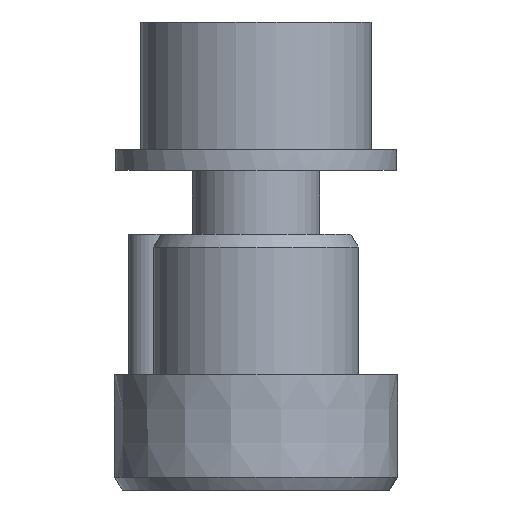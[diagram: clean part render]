
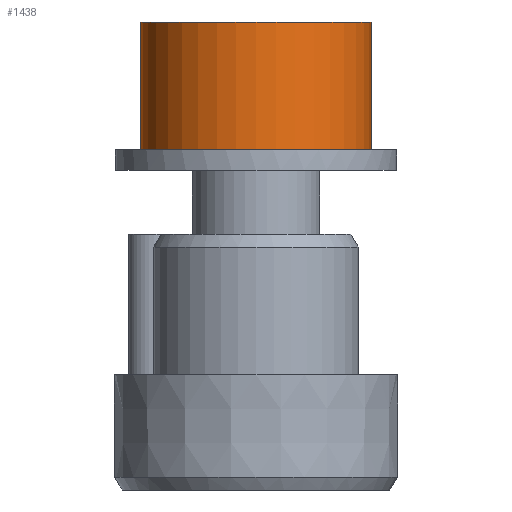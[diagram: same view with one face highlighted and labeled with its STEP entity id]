
A CAD part, left-side view. The second image highlights one B-rep face of the part: STEP entity #1438.
In plain terms, the highlighted cylindrical face has radius 4.5 mm (diameter 9 mm), a partial arc.
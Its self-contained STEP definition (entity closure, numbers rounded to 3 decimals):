
#1389=CARTESIAN_POINT('Axis2P3D Location',(0.,0.,0.8)) ;
#1393=CARTESIAN_POINT('Vertex',(0.,4.5,0.8)) ;
#1395=CARTESIAN_POINT('Vertex',(0.,-4.5,0.8)) ;
#1408=CARTESIAN_POINT('Axis2P3D Location',(0.,0.,0.8)) ;
#1413=CARTESIAN_POINT('Line Origine',(0.,-4.5,0.8)) ;
#1417=CARTESIAN_POINT('Vertex',(0.,-4.5,5.8)) ;
#1420=CARTESIAN_POINT('Axis2P3D Location',(0.,0.,5.8)) ;
#1424=CARTESIAN_POINT('Vertex',(0.,4.5,5.8)) ;
#1427=CARTESIAN_POINT('Line Origine',(0.,4.5,0.8)) ;
#1390=DIRECTION('Axis2P3D Direction',(0.,-0.,1.)) ;
#1409=DIRECTION('Axis2P3D Direction',(0.,0.,1.)) ;
#1410=DIRECTION('Axis2P3D XDirection',(0.,1.,0.)) ;
#1414=DIRECTION('Vector Direction',(0.,0.,1.)) ;
#1421=DIRECTION('Axis2P3D Direction',(0.,0.,1.)) ;
#1428=DIRECTION('Vector Direction',(0.,0.,1.)) ;
#1391=AXIS2_PLACEMENT_3D('Circle Axis2P3D',#1389,#1390,$) ;
#1411=AXIS2_PLACEMENT_3D('Cylinder Axis2P3D',#1408,#1409,#1410) ;
#1422=AXIS2_PLACEMENT_3D('Circle Axis2P3D',#1420,#1421,$) ;
#1433=ORIENTED_EDGE('',*,*,#1397,.T.) ;
#1434=ORIENTED_EDGE('',*,*,#1419,.T.) ;
#1435=ORIENTED_EDGE('',*,*,#1426,.F.) ;
#1436=ORIENTED_EDGE('',*,*,#1431,.F.) ;
#1415=VECTOR('Line Direction',#1414,1.) ;
#1429=VECTOR('Line Direction',#1428,1.) ;
#1438=ADVANCED_FACE('Body.5 ( *SOL224353 - wsp *MASTER -  )',(#1437),#1412,.T.) ;
#1392=CIRCLE('generated circle',#1391,4.5) ;
#1423=CIRCLE('generated circle',#1422,4.5) ;
#1412=CYLINDRICAL_SURFACE('generated cylinder',#1411,4.5) ;
#1397=EDGE_CURVE('',#1394,#1396,#1392,.T.) ;
#1419=EDGE_CURVE('',#1396,#1418,#1416,.T.) ;
#1426=EDGE_CURVE('',#1425,#1418,#1423,.T.) ;
#1431=EDGE_CURVE('',#1394,#1425,#1430,.T.) ;
#1432=EDGE_LOOP('',(#1433,#1434,#1435,#1436)) ;
#1437=FACE_OUTER_BOUND('',#1432,.T.) ;
#1416=LINE('Line',#1413,#1415) ;
#1430=LINE('Line',#1427,#1429) ;
#1394=VERTEX_POINT('',#1393) ;
#1396=VERTEX_POINT('',#1395) ;
#1418=VERTEX_POINT('',#1417) ;
#1425=VERTEX_POINT('',#1424) ;
